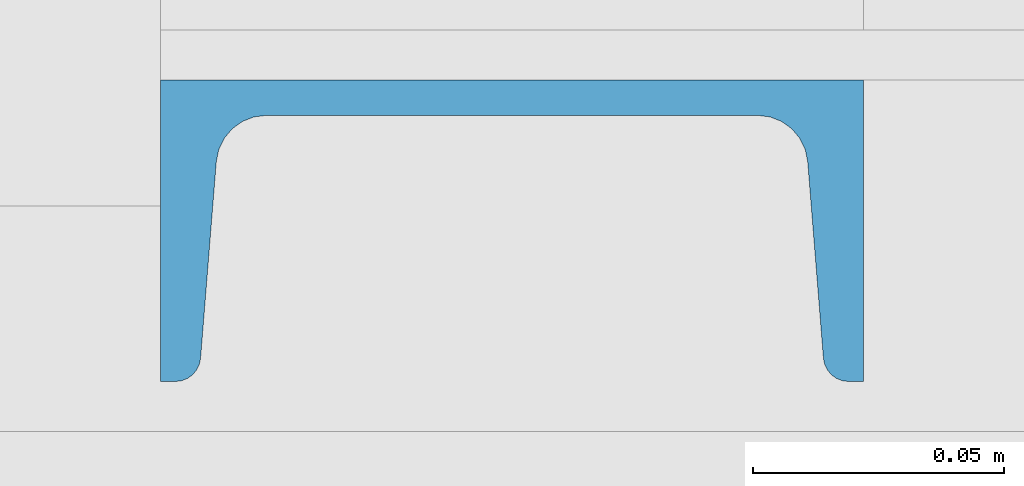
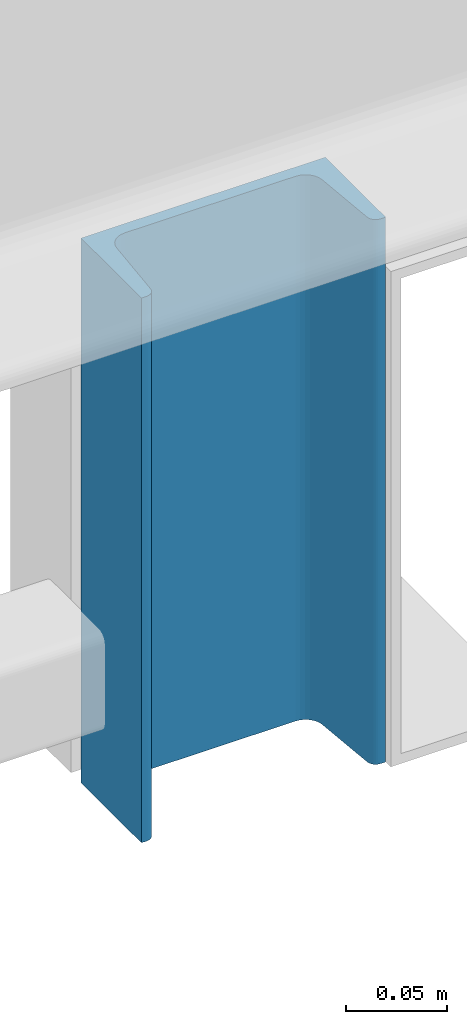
# One storey, part 17 of 123: 1 column, 1 element without a shape of its own.
"""IFC2X3 building model written with IfcOpenShell, lengths in millimetres."""

from ifc_helpers import new_model, si_unit, frame, origin_with_axes, origin_2d_with_axis, place, context, subcontext, project, spatial, u_section, extrude, material, type_object, element, aggregate, save


model = new_model("IFC2X3")

# Units and contexts
model_context = context("Model", 3, precision=1e-05, world=origin_with_axes())
body_context = subcontext(model_context, "Body", "Model", "MODEL_VIEW")
ifc_project = project(units=[si_unit("LENGTHUNIT", "METRE", prefix="MILLI"), si_unit("AREAUNIT", "SQUARE_METRE"), si_unit("VOLUMEUNIT", "CUBIC_METRE"), si_unit("MASSUNIT", "GRAM", prefix="KILO"), si_unit("TIMEUNIT", "SECOND"), si_unit("PLANEANGLEUNIT", "RADIAN"), si_unit("SOLIDANGLEUNIT", "STERADIAN"), si_unit("THERMODYNAMICTEMPERATUREUNIT", "DEGREE_CELSIUS"), si_unit("LUMINOUSINTENSITYUNIT", "LUMEN")], contexts=[model_context])

# Site, building, storey
site_placement = place(None, origin_with_axes())
site = spatial("IfcSite", under=ifc_project, at=site_placement, Name="Undefined", CompositionType="ELEMENT")
building_placement = place(site_placement, origin_with_axes())
building = spatial("IfcBuilding", under=site, at=building_placement, Name="Undefined", CompositionType="ELEMENT")
storey_placement = place(building_placement, origin_with_axes())
storey = spatial("IfcBuildingStorey", under=building, at=storey_placement, Name="Undefined", CompositionType="ELEMENT", Elevation=0.0)

# Assembly, column
assembly_placement = place(storey_placement, origin_with_axes())
assembly = element("IfcElementAssembly", 1, at=assembly_placement, inside=storey, Name="Steel Assembly", AssemblyPlace="NOTDEFINED", PredefinedType="RIGID_FRAME")
ifc_material = material(Name="STEEL/S275-E28")
column_type = type_object("IfcColumnType", Name="UPN140", PredefinedType="NOTDEFINED")
column_placement = place(assembly_placement, frame((13876.4998855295, -35.0, 7940.0), z_axis=(0.0, 0.0, 1.0), x_axis=(-1.0, 0.0, 0.0)))
column = element("IfcColumn", 2, at=column_placement, type_object=column_type, material=ifc_material, Name="MONTANT", ObjectType="UPN140", context=body_context, shape_type="SweptSolid", body=[
    extrude(u_section(Depth=140.0, FlangeWidth=60.0, WebThickness=7.0, FlangeThickness=10.0, FilletRadius=10.0, EdgeRadius=5.0, FlangeSlope=0.0798299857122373, at=origin_2d_with_axis()), frame((0.0, 0.0, 329.994446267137), z_axis=(0.0, 0.0, -1.0), x_axis=(0.0, 1.0, 0.0)), (0.0, 0.0, 1.0), 330.0),
])
aggregate(assembly, [column])

save(model, "model.ifc")
